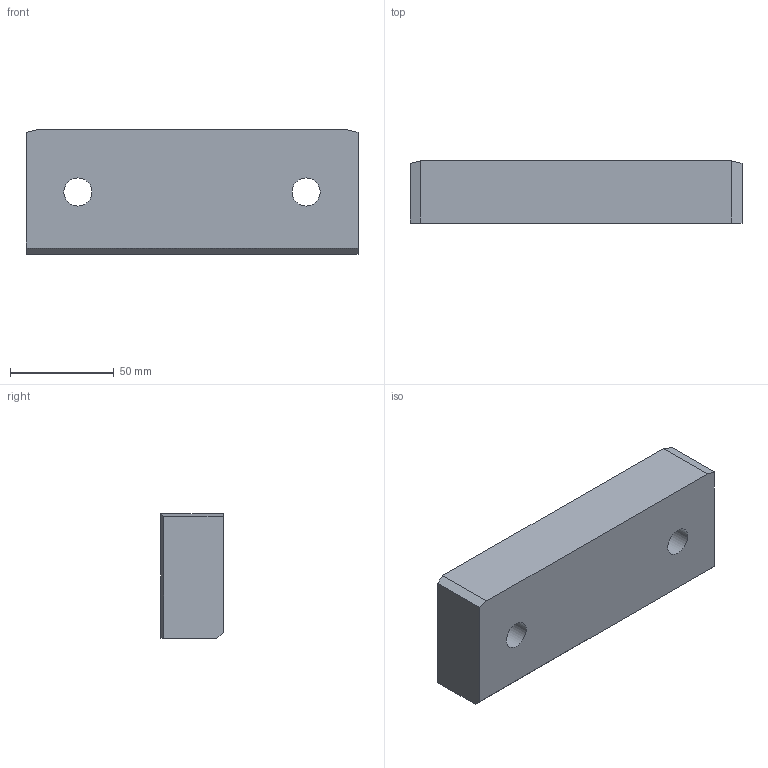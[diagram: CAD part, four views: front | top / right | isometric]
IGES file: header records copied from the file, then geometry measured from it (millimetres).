
Start section: Data from Parasolid IGES Translator 20.0.26, Copyright(c) 2006 Siemens P LM Software. All Rights Reserved.
Global section: file name: G224-12-030-160.igs; native system: By Siemens PLM Incorporated; preprocessor: XPlus GENERIC/IGES 20.0.26; author: Noname; organization: Noname; date: 20190709.085205; units: millimetre
Bounding box: 160 x 30 x 60 mm (x, y, z)
Surface area: 34379.8 mm2 (no closed solid volume)
Topology: 0 solids, 0 shells, 17 faces, 74 edges, 70 vertices
Faces by surface type: extrusion 13, revolution 4
